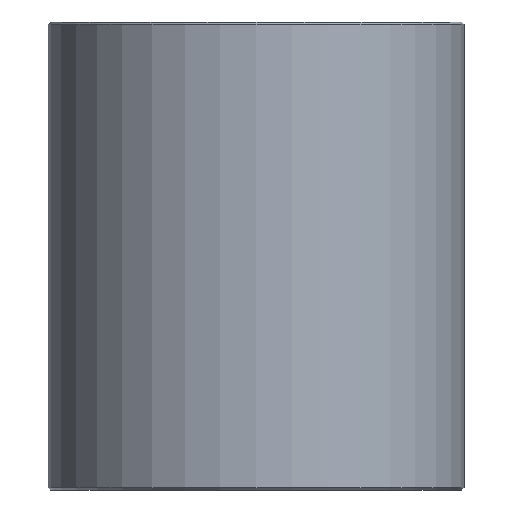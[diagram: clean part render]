
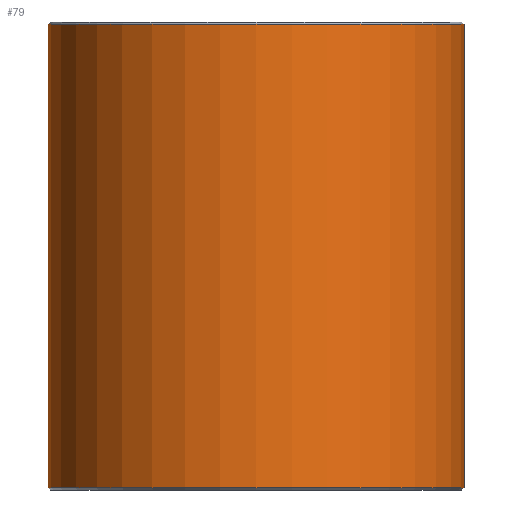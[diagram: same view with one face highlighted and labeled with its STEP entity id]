
A CAD part, front view. The second image highlights one B-rep face of the part: STEP entity #79.
In plain terms, the highlighted cylindrical face has radius 20 mm (diameter 40 mm), a full revolution.
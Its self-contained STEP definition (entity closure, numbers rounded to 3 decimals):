
#79=ADVANCED_FACE('',(#96,#97),#98,.T.);
#96=FACE_OUTER_BOUND('',#120,.T.);
#97=FACE_OUTER_BOUND('',#121,.T.);
#98=CYLINDRICAL_SURFACE('',#122,20.0);
#120=EDGE_LOOP('',(#152));
#121=EDGE_LOOP('',(#153));
#122=AXIS2_PLACEMENT_3D('',#154,#155,#156);
#152=ORIENTED_EDGE('',*,*,#178,.T.);
#153=ORIENTED_EDGE('',*,*,#177,.T.);
#154=CARTESIAN_POINT('',(0.,0.0,45.0));
#155=DIRECTION('',(0.0,0.0,-1.0));
#156=DIRECTION('',(-1.0,0.0,0.0));
#177=EDGE_CURVE('',#190,#190,#191,.T.);
#178=EDGE_CURVE('',#192,#192,#193,.F.);
#190=VERTEX_POINT('',#206);
#191=CIRCLE('',#207,20.0);
#192=VERTEX_POINT('',#208);
#193=CIRCLE('',#209,20.0);
#206=CARTESIAN_POINT('',(20.0,0.0,0.2));
#207=AXIS2_PLACEMENT_3D('',#227,#228,#229);
#208=CARTESIAN_POINT('',(20.0,0.,44.8));
#209=AXIS2_PLACEMENT_3D('',#230,#231,#232);
#227=CARTESIAN_POINT('',(0.,0.0,0.2));
#228=DIRECTION('',(0.0,0.0,1.0));
#229=DIRECTION('',(1.0,0.0,0.0));
#230=CARTESIAN_POINT('',(0.,0.0,44.8));
#231=DIRECTION('',(0.0,0.0,1.0));
#232=DIRECTION('',(1.0,0.0,0.0));
